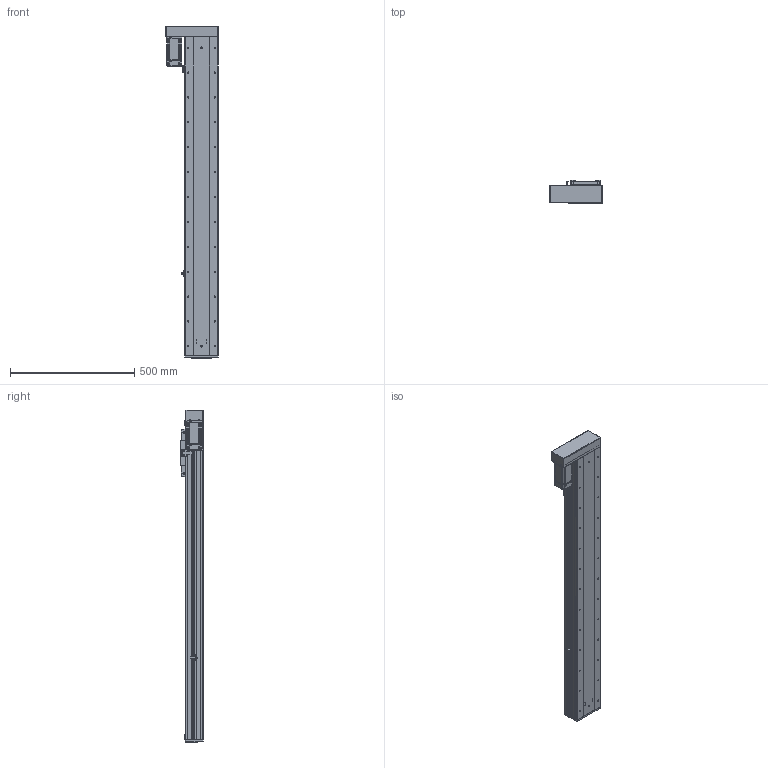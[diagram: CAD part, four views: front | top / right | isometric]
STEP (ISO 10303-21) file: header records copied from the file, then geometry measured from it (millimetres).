
FILE_DESCRIPTION (( 'STEP AP203' ), '1' );
FILE_NAME ('RY140F-L2020-300-LK.SLDASM_1000.step', '2021-03-02T08:37:40', ( '盈信电脑' ), ( '东莞市道滘镇水果街19号' ), 'SwSTEP 2.0', 'SolidWorks 2012', '' );
FILE_SCHEMA (( 'CONFIG_CONTROL_DESIGN' ));
Products named in the file (19): RY140F-左右折电机安装板(400W M5); RY140F-酘衵殏萇儂欶(400W); RY140F-转折折电机座（7001）; RY140F-L2020-300-LK.SLDASM_1000; RY140F-詩湍揤え; 侐源滅袉蝶; RY140F-672覜茼んえ; RY140F-后盖板(铝件）; 侂狟400W侜督萇儂; 15; 覜茼ん672; RY100F-詩湍揤踡謫; RY140F-詩湍幗謫粣; RY140F-直连型材铝滑块(16丝杆); RY140F-直连型材铝滑块连接座; RY140F-滅鳥奻裔; RY140F-300-LK倰第奻裔啣_1000; RY140F-300-LK蛌殏詩湍_1000; RY140F-300-LK倰第菁釱_1000
Assembly tree (23 placements, depth 3):
  RY140F-L2020-300-LK.SLDASM_1000
    RY140F-300-LK倰第菁釱_1000
    RY140F-300-LK倰第奻裔啣_1000  x2
    RY140F-300-LK蛌殏詩湍_1000
    RY140F-直连型材铝滑块连接座
    RY140F-滅鳥奻裔
    RY140F-詩湍幗謫粣
    RY100F-詩湍揤踡謫
    RY140F-直连型材铝滑块(16丝杆)
    RY140F-后盖板(铝件）
    侂狟400W侜督萇儂
      15
    覜茼ん672
    RY140F-672覜茼んえ
    RY140F-詩湍揤え  x2
    侐源滅袉蝶  x4
    RY140F-转折折电机座（7001）
    RY140F-左右折电机安装板(400W M5)
    RY140F-酘衵殏萇儂欶(400W)
Bounding box: 211 x 91 x 1334 mm (x, y, z)
Volume: 4975081.6 mm3; surface area: 1782132.1 mm2
Topology: 22 solids, 22 shells, 2105 faces, 5733 edges, 3620 vertices
Faces by surface type: cylinder 1032, plane 789, cone 254, bspline 26, torus 4
Entity records: 66231 total; most frequent: CARTESIAN_POINT 13909, DIRECTION 10674, ORIENTED_EDGE 10298, EDGE_CURVE 5149, AXIS2_PLACEMENT_3D 3849, VERTEX_POINT 3360, VECTOR 2976, LINE 2976
